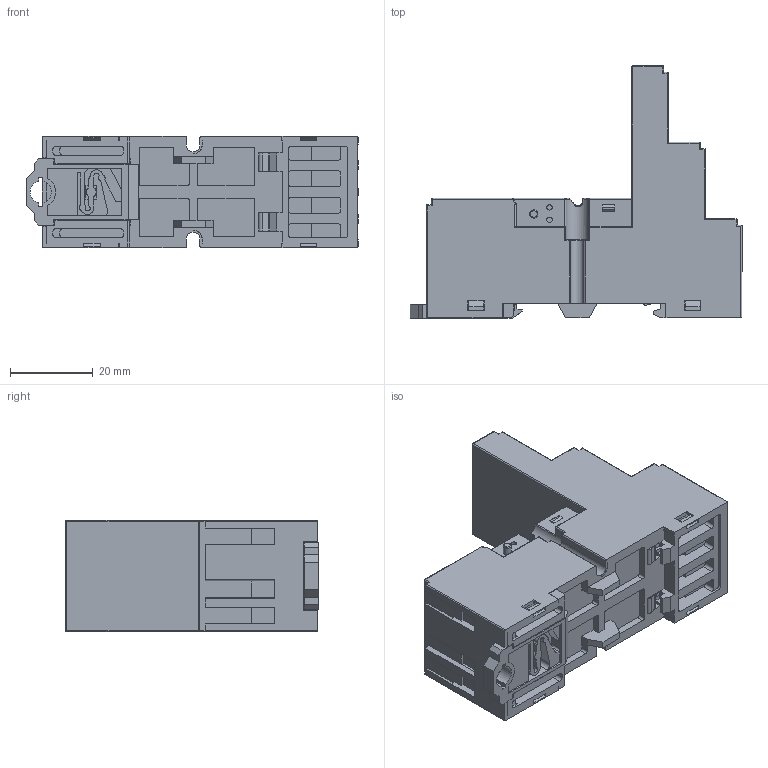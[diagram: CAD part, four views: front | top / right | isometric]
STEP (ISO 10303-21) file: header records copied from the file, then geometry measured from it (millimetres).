
FILE_DESCRIPTION (( 'STEP AP203' ), '1' );
FILE_NAME ('SKC08-E 俋倛.STEP', '2023-07-26T07:43:14', ( 'admin' ), ( '' ), 'SwSTEP 2.0', 'SolidWorks 2022', '' );
FILE_SCHEMA (( 'CONFIG_CONTROL_DESIGN' ));
Length unit declared in the file: millimetre
Products named in the file (1): SKC08-E 俋倛
Bounding box: 80.37 x 61.1 x 26.9 mm (x, y, z)
Volume: 58388.4 mm3; surface area: 19157.7 mm2
Topology: 1 solids, 1 shells, 1264 faces, 3412 edges, 2184 vertices
Faces by surface type: plane 822, cylinder 279, torus 94, cone 43, sphere 22, bspline 4
Entity records: 41023 total; most frequent: CARTESIAN_POINT 9442, ORIENTED_EDGE 6744, DIRECTION 6292, EDGE_CURVE 3372, LINE 2362, VECTOR 2362, VERTEX_POINT 2184, AXIS2_PLACEMENT_3D 1965
